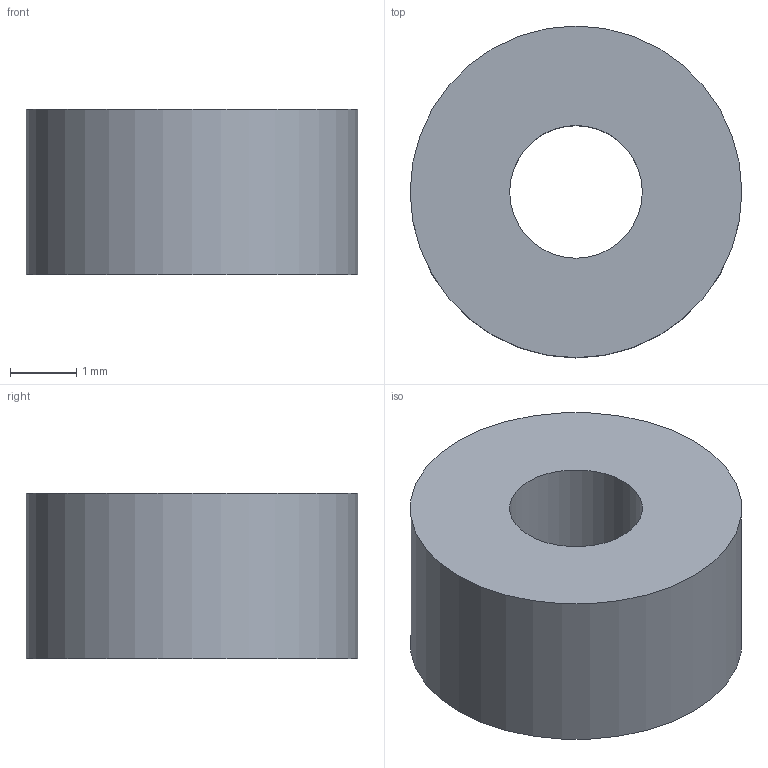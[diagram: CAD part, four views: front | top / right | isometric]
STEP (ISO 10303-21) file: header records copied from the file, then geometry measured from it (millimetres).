
FILE_DESCRIPTION(('Open CASCADE Model'),'2;1');
FILE_NAME('Open CASCADE Shape Model','2026-10-24T17:46:06',('Author'),( 'Open CASCADE'),'Open CASCADE STEP processor 8.0','Open CASCADE 8.0' ,'Unknown');
FILE_SCHEMA(('AUTOMOTIVE_DESIGN { 1 0 10303 214 1 1 1 1 }'));
Length unit declared in the file: millimetre
Products named in the file (1): Open CASCADE STEP translator 8.0 33
Bounding box: 5 x 5 x 2.5 mm (x, y, z)
Volume: 41.2 mm3; surface area: 88 mm2
Topology: 1 solids, 1 shells, 4 faces, 6 edges, 4 vertices
Faces by surface type: cylinder 2, plane 2
Full cylindrical faces by diameter (mm): 2 x1, 5 x1
Entity records: 186 total; most frequent: DIRECTION 32, CARTESIAN_POINT 27, ORIENTED_EDGE 12, PCURVE 12, DEFINITIONAL_REPRESENTATION 12, LINE 10, VECTOR 10, AXIS2_PLACEMENT_3D 9
